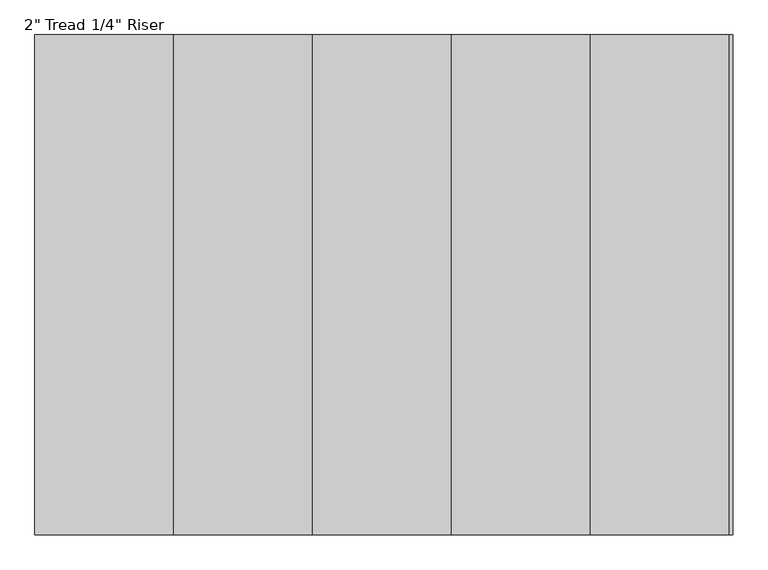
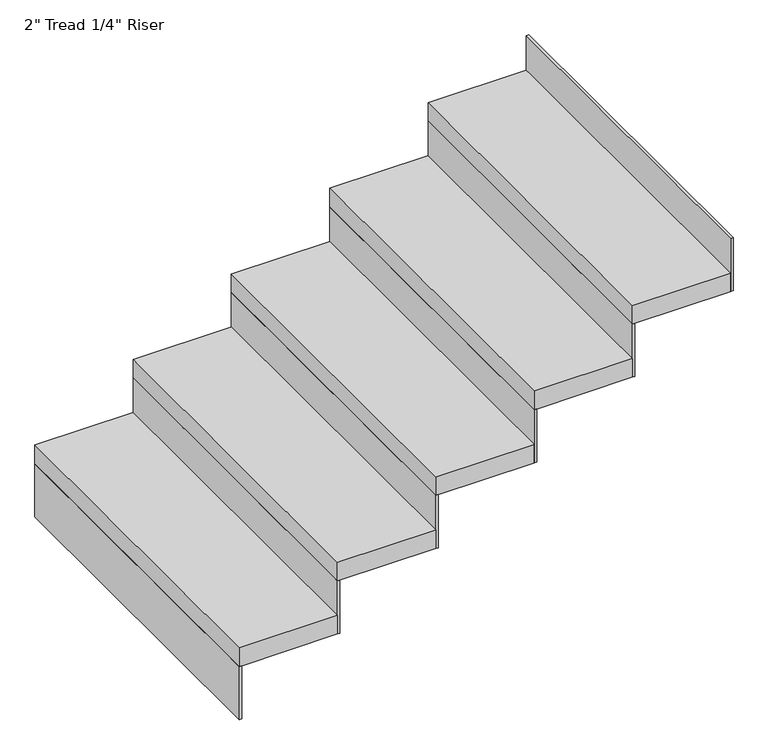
"""IFC4 building model written with IfcOpenShell, lengths in millimetres: stair flight geometry."""

from ifc_helpers import new_model, si_unit, frame, origin, place, context, project, spatial, polyline, outline, extrude, source, transform, mapped, element, save


def stair_flight_a8a5efef(model_context):
    return source(origin(), model_context, "Body", "SweptSolid", [
        extrude(outline(polyline([(29189.1612561, -22025.8617549), (29182.8112561, -22025.8617549), (29182.8112561, -21111.4617549), (29189.1612561, -21111.4617549), (29189.1612561, -22025.8617549)])), frame((0.0, 0.0, 2126.3428571), z_axis=(0.0, 0.0, 1.0), x_axis=(1.0, 0.0, 0.0)), (0.0, 0.0, 1.0), 145.1428571),
        extrude(outline(polyline([(29436.8112561, -21111.4617549), (29436.8112561, -22025.8617549), (29182.8112561, -22025.8617549), (29182.8112561, -21111.4617549), (29436.8112561, -21111.4617549)])), frame((0.0, 0.0, 2271.4857143), z_axis=(0.0, 0.0, 1.0), x_axis=(1.0, 0.0, 0.0)), (0.0, 0.0, 1.0), 50.8),
        extrude(outline(polyline([(29443.1612561, -22025.8617549), (29436.8112561, -22025.8617549), (29436.8112561, -21111.4617549), (29443.1612561, -21111.4617549), (29443.1612561, -22025.8617549)])), frame((0.0, 0.0, 2271.4857143), z_axis=(0.0, 0.0, 1.0), x_axis=(1.0, 0.0, 0.0)), (0.0, 0.0, 1.0), 145.1428571),
        extrude(outline(polyline([(29690.8112561, -21111.4617549), (29690.8112561, -22025.8617549), (29436.8112561, -22025.8617549), (29436.8112561, -21111.4617549), (29690.8112561, -21111.4617549)])), frame((0.0, 0.0, 2416.6285714), z_axis=(0.0, 0.0, 1.0), x_axis=(1.0, 0.0, 0.0)), (0.0, 0.0, 1.0), 50.8),
        extrude(outline(polyline([(29697.1612561, -22025.8617549), (29690.8112561, -22025.8617549), (29690.8112561, -21111.4617549), (29697.1612561, -21111.4617549), (29697.1612561, -22025.8617549)])), frame((0.0, 0.0, 2416.6285714), z_axis=(0.0, 0.0, 1.0), x_axis=(1.0, 0.0, 0.0)), (0.0, 0.0, 1.0), 145.1428571),
        extrude(outline(polyline([(29944.8112561, -21111.4617549), (29944.8112561, -22025.8617549), (29690.8112561, -22025.8617549), (29690.8112561, -21111.4617549), (29944.8112561, -21111.4617549)])), frame((0.0, 0.0, 2561.7714286), z_axis=(0.0, 0.0, 1.0), x_axis=(1.0, 0.0, 0.0)), (0.0, 0.0, 1.0), 50.8),
        extrude(outline(polyline([(29951.1612561, -22025.8617549), (29944.8112561, -22025.8617549), (29944.8112561, -21111.4617549), (29951.1612561, -21111.4617549), (29951.1612561, -22025.8617549)])), frame((0.0, 0.0, 2561.7714286), z_axis=(0.0, 0.0, 1.0), x_axis=(1.0, 0.0, 0.0)), (0.0, 0.0, 1.0), 145.1428571),
        extrude(outline(polyline([(30198.8112561, -21111.4617549), (30198.8112561, -22025.8617549), (29944.8112561, -22025.8617549), (29944.8112561, -21111.4617549), (30198.8112561, -21111.4617549)])), frame((0.0, 0.0, 2706.9142857), z_axis=(0.0, 0.0, 1.0), x_axis=(1.0, 0.0, 0.0)), (0.0, 0.0, 1.0), 50.8),
        extrude(outline(polyline([(30205.1612561, -22025.8617549), (30198.8112561, -22025.8617549), (30198.8112561, -21111.4617549), (30205.1612561, -21111.4617549), (30205.1612561, -22025.8617549)])), frame((0.0, 0.0, 2706.9142857), z_axis=(0.0, 0.0, 1.0), x_axis=(1.0, 0.0, 0.0)), (0.0, 0.0, 1.0), 145.1428571),
        extrude(outline(polyline([(30459.1612561, -22025.8617549), (30452.8112561, -22025.8617549), (30452.8112561, -21111.4617549), (30459.1612561, -21111.4617549), (30459.1612561, -22025.8617549)])), frame((0.0, 0.0, 2852.0571429), z_axis=(0.0, 0.0, 1.0), x_axis=(1.0, 0.0, 0.0)), (0.0, 0.0, 1.0), 145.1428571),
        extrude(outline(polyline([(30452.8112561, -21111.4617549), (30452.8112561, -22025.8617549), (30198.8112561, -22025.8617549), (30198.8112561, -21111.4617549), (30452.8112561, -21111.4617549)])), frame((0.0, 0.0, 2852.0571429), z_axis=(0.0, 0.0, 1.0), x_axis=(1.0, 0.0, 0.0)), (0.0, 0.0, 1.0), 50.8),
    ])


if __name__ == "__main__":
    model = new_model("IFC4")
    model_context = context("Model", 3, world=origin())
    ifc_project = project(units=[si_unit("LENGTHUNIT", "METRE", prefix="MILLI")], contexts=[model_context])
    site = spatial("IfcSite", under=ifc_project)
    building = spatial("IfcBuilding", under=site)
    placement = place(None, origin())
    stair_flight_shape = stair_flight_a8a5efef(model_context)
    element("IfcStairFlight", 1, ObjectType="2\" Tread 1/4\" Riser", at=placement, inside=building, context=model_context, shape_type="MappedRepresentation", body=[
        mapped(stair_flight_shape, transform((0.0, 0.0, 0.0), x_axis=(1.0, 0.0, 0.0), y_axis=(0.0, 1.0, 0.0), z_axis=(0.0, 0.0, 1.0))),
    ])
    save(model, "model.ifc")
